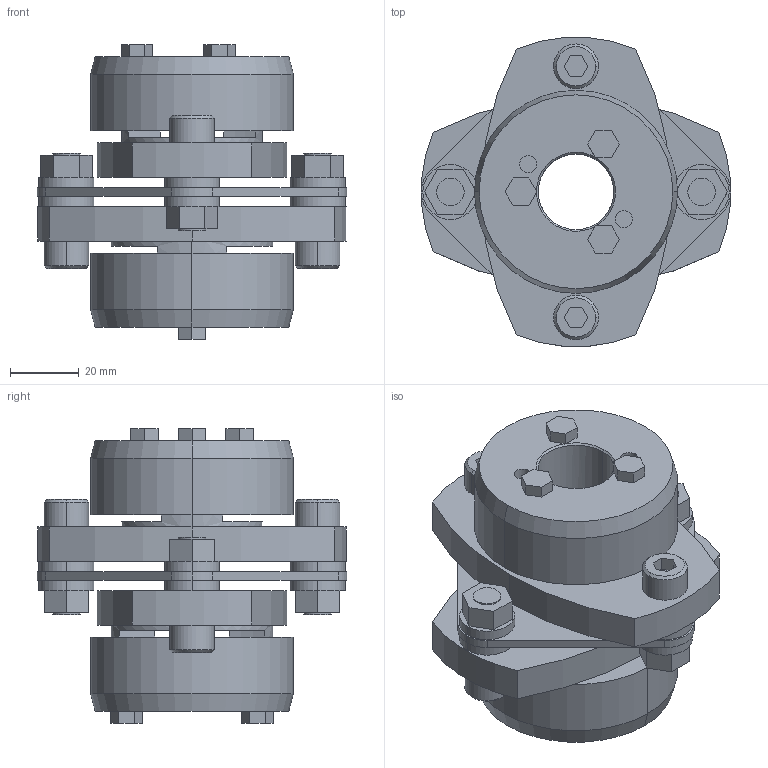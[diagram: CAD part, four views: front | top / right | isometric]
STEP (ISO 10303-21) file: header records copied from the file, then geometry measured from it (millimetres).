
FILE_DESCRIPTION((''),'2;1');
FILE_NAME('LCS-90T7-22×25.stp','2011-09-09T09:57:54',(''),(''),'AutoCAD STEP 2000i','AutoCAD 2000i',', , ');
FILE_SCHEMA(('CONFIG_CONTROL_DESIGN'));
Length unit declared in the file: millimetre
Products named in the file (8): LCS-90T7-19×25; 忣兜1; LC90T7-T025; LC90T7-T019-1; LC90T7-T019; LC90-B019-1; LC90-B019; LCS90-ITA
Assembly tree (7 placements, depth 2):
  LCS-90T7-19×25
    忣兜1
    LC90T7-T025
    LC90T7-T019-1
    LC90T7-T019
    LC90-B019-1
    LC90-B019
    LCS90-ITA
Bounding box: 90 x 89.94 x 85.5 mm (x, y, z)
Volume: 199000.9 mm3; surface area: 52143 mm2
Topology: 1 solids, 1 shells, 228 faces, 562 edges, 366 vertices
Faces by surface type: plane 128, cylinder 80, cone 20
Entity records: 6989 total; most frequent: DIRECTION 1236, CARTESIAN_POINT 1164, ORIENTED_EDGE 1124, EDGE_CURVE 562, AXIS2_PLACEMENT_3D 438, VERTEX_POINT 366, VECTOR 360, LINE 360
